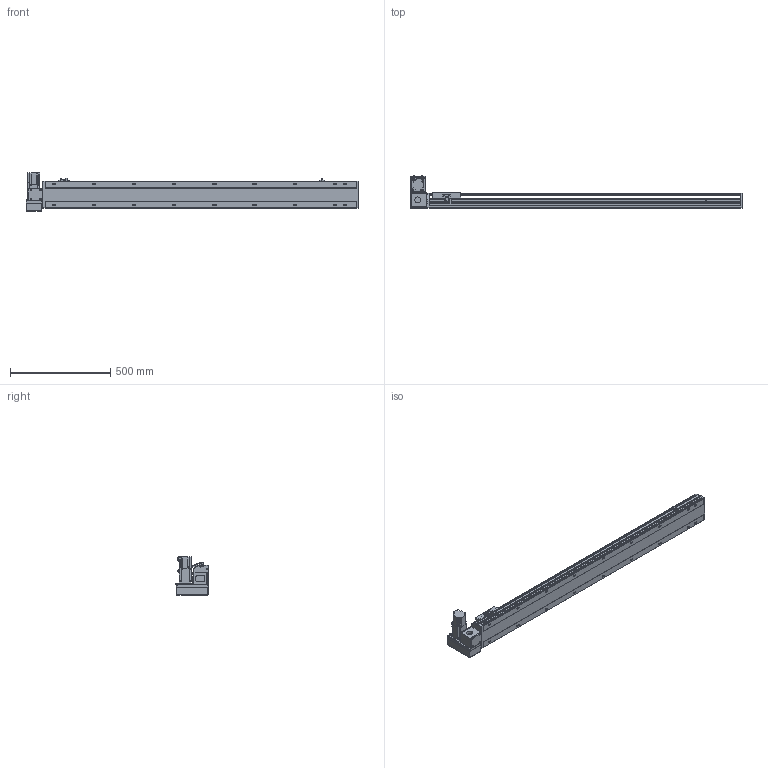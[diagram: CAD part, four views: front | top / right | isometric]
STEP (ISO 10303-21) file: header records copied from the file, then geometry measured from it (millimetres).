
FILE_DESCRIPTION( ( 'STEP AP214' ), '1' );
FILE_NAME( 'x:/temp/worker_1/temp/exporttempdir_5824_33_cMwQG/format_0/PBS140-P40-S1300-LU-T40-C1-N(0).stp', '2022-06-07T05:17:15', ( 'License CC BY-ND 4.0' ), ( 'CADENAS' ), ' ', 'PARTsolutions', ' ' );
FILE_SCHEMA( ( 'AUTOMOTIVE_DESIGN { 1 0 10303 214 1 1 1 1 }' ) );
Length unit declared in the file: millimetre
Products named in the file (7): PBS140-P40-S1300-LU-T40-C1-N(0); _PBS140-S1300()_body; _PBS140T-LU_motors; _T40-p1; _PBS140_sliser; _PBS140_plant; _PBS140_sensor
Assembly tree (8 placements, depth 2):
  PBS140-P40-S1300-LU-T40-C1-N(0)
    _PBS140-S1300()_body
    _PBS140T-LU_motors
    _T40-p1
    _PBS140_sliser
    _PBS140_plant
    _PBS140_sensor  x3
Bounding box: 1654 x 162.5 x 189.7 mm (x, y, z)
Volume: 7768854.5 mm3; surface area: 1348410.6 mm2
Topology: 8 solids, 8 shells, 1091 faces, 2876 edges, 1879 vertices
Faces by surface type: plane 698, cylinder 339, cone 44, sphere 8, torus 2
Full cylindrical faces by diameter (mm): 3.242 x4, 4 x2, 4.134 x4, 4.4 x8, 4.5 x2, 4.8 x4, 4.917 x26, 5.5 x7, 6 x2, 7 x20, 7.5 x8, 8 x12, 8.5 x4, 10.5 x18, 14 x1, 30 x2, 50 x2
Entity records: 39931 total; most frequent: CARTESIAN_POINT 6419, DIRECTION 5267, ORIENTED_EDGE 4972, EDGE_CURVE 2486, AXIS2_PLACEMENT_3D 1837, VERTEX_POINT 1725, LINE 1593, VECTOR 1593
